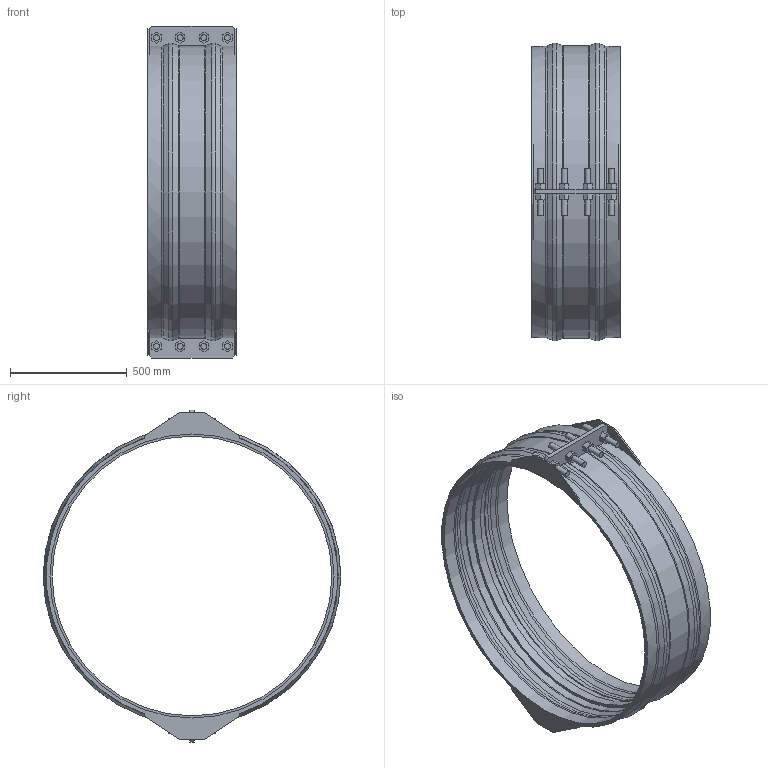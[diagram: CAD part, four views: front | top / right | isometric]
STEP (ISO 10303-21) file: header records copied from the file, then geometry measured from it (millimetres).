
FILE_DESCRIPTION(/* description */ ('VIC RESTRAINED COUPLING STYLE 233 (FLEX) (BRD)','CAx-IF Rec.Pracs.---Representation and Presentation of Product Manufacturing Information (PMI)---4.0---2014-10-13'),/* implementation_level */ '2;1');
FILE_NAME(/* name */ 'C:\Users\Vjadhav\Desktop\CAD for Inventor\Test for STEP\Vivek\Adsk_Inventor_Bolted Sleeve_iParts\STEP\Victaulic_VBSP_Coupling Flexible Restrained_Style 233 (BRD)\Victaulic_VBSP_Coupling Flexible Restrained_Style 233 (BRD)_300psi_48 (1200).stp',/* time_stamp */ '2020-09-24T12:30:13+05:00',/* author */ ('Vjadhav'),/* organization */ ('Victaulic'),/* preprocessor_version */ 'ST-DEVELOPER v17.2',/* originating_system */ 'Autodesk Inventor 2019',/* authorisation */ '');
FILE_SCHEMA (('AP242_MANAGED_MODEL_BASED_3D_ENGINEERING_MIM_LF { 1 0 10303 442 1 1 4 }'));
Length unit declared in the file: inch
Products named in the file (1): Style_233_Type_2_300psi-48.0
Bounding box: 381 x 1277.64 x 1424.94 mm (x, y, z)
Volume: 28472889 mm3; surface area: 3675492.6 mm2
Topology: 1 solids, 1 shells, 239 faces, 625 edges, 422 vertices
Faces by surface type: plane 166, cylinder 43, torus 18, cone 12
Full cylindrical faces by diameter (mm): 25.4 x16, 1200.15 x1, 1219.2 x2, 1225.55 x2
Entity records: 7896 total; most frequent: CARTESIAN_POINT 1496, DIRECTION 1259, ORIENTED_EDGE 1250, EDGE_CURVE 625, LINE 449, VECTOR 449, VERTEX_POINT 422, AXIS2_PLACEMENT_3D 405
